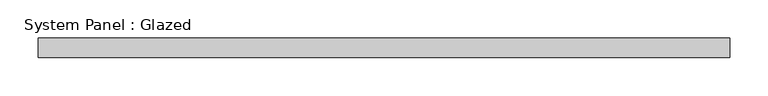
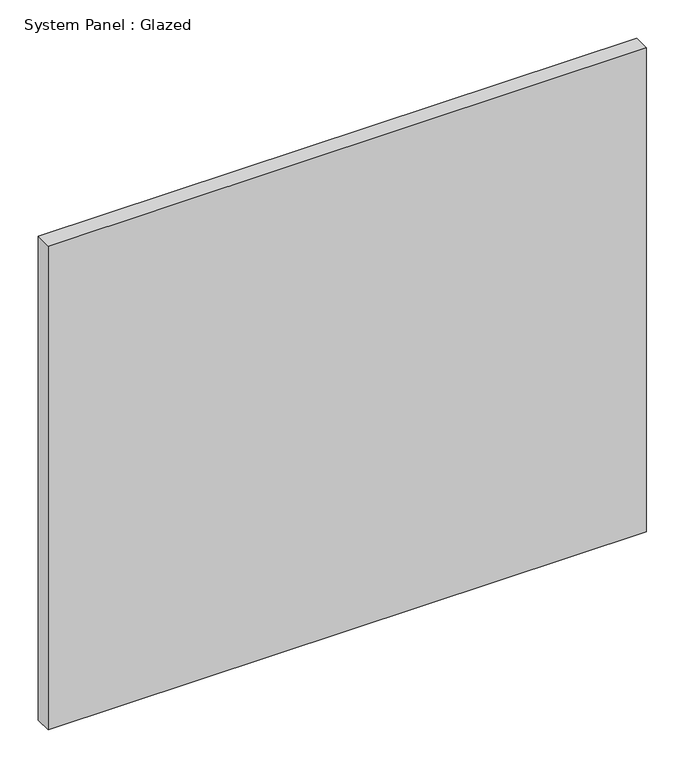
"""IFC4 building model written with IfcOpenShell, lengths in millimetres: plate geometry, System Panel : Glazed."""

from ifc_helpers import new_model, si_unit, origin, origin_with_axes, place, context, project, spatial, polyline, outline, extrude, source, transform, mapped, element, save


def system_panel_glazed_e2c65910(model_context):
    return source(origin(), model_context, "Body", "SweptSolid", [
        extrude(outline(polyline([(450.85, -44.45), (-450.85, -44.45), (-450.85, -19.05), (450.85, -19.05), (450.85, -44.45)])), origin_with_axes(), (0.0, 0.0, 1.0), 770.6690025),
    ])


if __name__ == "__main__":
    model = new_model("IFC4")
    model_context = context("Model", 3, world=origin())
    ifc_project = project(units=[si_unit("LENGTHUNIT", "METRE", prefix="MILLI")], contexts=[model_context])
    site = spatial("IfcSite", under=ifc_project)
    building = spatial("IfcBuilding", under=site)
    placement = place(None, origin())
    system_panel_glazed_shape = system_panel_glazed_e2c65910(model_context)
    element("IfcPlate", 1, ObjectType="System Panel : Glazed", at=placement, inside=building, context=model_context, shape_type="MappedRepresentation", body=[
        mapped(system_panel_glazed_shape, transform((0.0, 0.0, 0.0), x_axis=(1.0, 0.0, 0.0), y_axis=(0.0, 1.0, 0.0), z_axis=(0.0, 0.0, 1.0))),
    ])
    save(model, "model.ifc")
